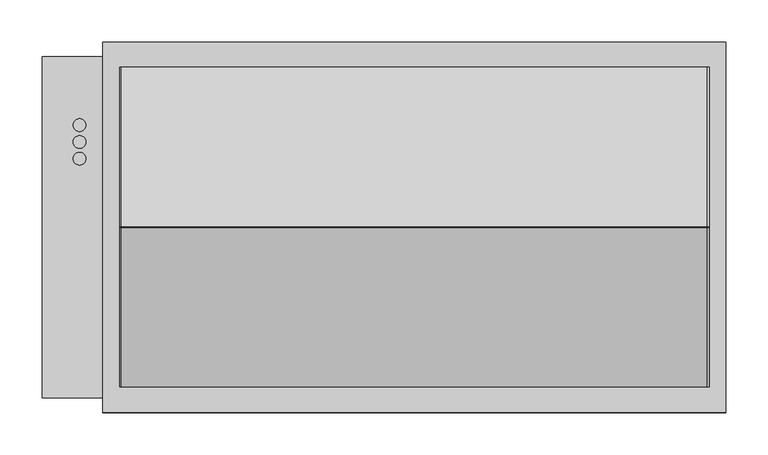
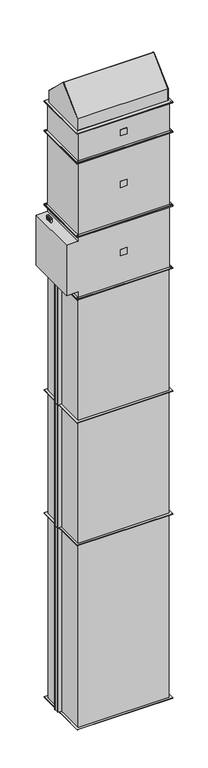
"""IFC4 building model written with IfcOpenShell, lengths in millimetres: proxy geometry, KORF_Завеса_ЭлектрическийНагрев_PWZ_C : PWZ-C 70-40 E."""

from ifc_helpers import new_model, si_unit, point, frame, frame_2d, origin, origin_with_axes, place, context, project, spatial, polyline, circle_curve, trimmed, segment, composite_curve, outline, extrude, source, transform, mapped, element, save


def mechanical_equipment_a9e4a32b(model_context):
    return source(origin(), model_context, "Body", "SweptSolid", [
        extrude(outline(polyline([(25.0, -205.0), (-25.0, -205.0), (-25.0, -203.0), (25.0, -203.0), (25.0, -205.0)])), frame((0.0, 0.0, 3730.0), z_axis=(0.0, 0.0, 1.0), x_axis=(1.0, 0.0, 0.0)), (0.0, 0.0, 1.0), 50.0),
        extrude(outline(composite_curve([segment(trimmed(circle_curve(frame_2d((-397.5, 101.5)), 7.5), [point((-390.0, 101.5))], [point((-405.0, 101.5))], False, "CARTESIAN"), True, "CONTINUOUS"), segment(trimmed(circle_curve(frame_2d((-397.5, 101.5)), 7.5), [point((-405.0, 101.5))], [point((-390.0, 101.5))], False, "CARTESIAN"), True, "CONTINUOUS")], self_intersect=False)), frame((0.0, 0.0, 3960.0), z_axis=(0.0, 0.0, 1.0), x_axis=(1.0, 0.0, 0.0)), (0.0, 0.0, 1.0), 30.0),
        extrude(outline(composite_curve([segment(trimmed(circle_curve(frame_2d((-397.5, 81.5)), 7.5), [point((-390.0, 81.5))], [point((-405.0, 81.5))], False, "CARTESIAN"), True, "CONTINUOUS"), segment(trimmed(circle_curve(frame_2d((-397.5, 81.5)), 7.5), [point((-405.0, 81.5))], [point((-390.0, 81.5))], False, "CARTESIAN"), True, "CONTINUOUS")], self_intersect=False)), frame((0.0, 0.0, 3960.0), z_axis=(0.0, 0.0, 1.0), x_axis=(1.0, 0.0, 0.0)), (0.0, 0.0, 1.0), 30.0),
        extrude(outline(composite_curve([segment(trimmed(circle_curve(frame_2d((-397.5, 121.5)), 7.5), [point((-390.0, 121.5))], [point((-405.0, 121.5))], False, "CARTESIAN"), True, "CONTINUOUS"), segment(trimmed(circle_curve(frame_2d((-397.5, 121.5)), 7.5), [point((-405.0, 121.5))], [point((-390.0, 121.5))], False, "CARTESIAN"), True, "CONTINUOUS")], self_intersect=False)), frame((0.0, 0.0, 3960.0), z_axis=(0.0, 0.0, 1.0), x_axis=(1.0, 0.0, 0.0)), (0.0, 0.0, 1.0), 30.0),
        extrude(outline(polyline([(-121.5, 3730.0), (-109.0, 3730.0), (-109.0, 3805.0), (-94.0, 3805.0), (-94.0, 3730.0), (-81.5, 3730.0), (-101.5, 3705.0), (-121.5, 3730.0)])), frame((353.0, 0.0, 0.0), z_axis=(1.0, 0.0, 0.0), x_axis=(0.0, 1.0, 0.0)), (0.0, 0.0, 1.0), 1.0),
        extrude(outline(polyline([(4005.0, 353.0), (4005.0, -353.0), (3960.0, -353.0), (3960.0, -442.0), (3550.0, -442.0), (3550.0, -353.0), (3505.0, -353.0), (3505.0, 353.0), (4005.0, 353.0)])), frame((0.0, -203.0, 0.0), z_axis=(0.0, 1.0, 0.0), x_axis=(0.0, 0.0, 1.0)), (0.0, 0.0, 1.0), 406.0),
        extrude(outline(polyline([(370.0, -220.0), (-370.0, -220.0), (-370.0, 220.0), (370.0, 220.0), (370.0, -220.0)]), holes=[polyline([(350.0, -200.0), (350.0, 200.0), (-350.0, 200.0), (-350.0, -200.0), (350.0, -200.0)]), composite_curve([segment(trimmed(circle_curve(frame_2d((-360.0, -210.0)), 4.5), [point((-355.5, -210.0))], [point((-364.5, -210.0))], True, "CARTESIAN"), True, "CONTINUOUS"), segment(trimmed(circle_curve(frame_2d((-360.0, -210.0)), 4.5), [point((-364.5, -210.0))], [point((-355.5, -210.0))], True, "CARTESIAN"), True, "CONTINUOUS")], self_intersect=False), composite_curve([segment(trimmed(circle_curve(frame_2d((360.0, -210.0)), 4.5), [point((364.5, -210.0))], [point((355.5, -210.0))], True, "CARTESIAN"), True, "CONTINUOUS"), segment(trimmed(circle_curve(frame_2d((360.0, -210.0)), 4.5), [point((355.5, -210.0))], [point((364.5, -210.0))], True, "CARTESIAN"), True, "CONTINUOUS")], self_intersect=False), composite_curve([segment(trimmed(circle_curve(frame_2d((360.0, 210.0)), 4.5), [point((364.5, 210.0))], [point((355.5, 210.0))], True, "CARTESIAN"), True, "CONTINUOUS"), segment(trimmed(circle_curve(frame_2d((360.0, 210.0)), 4.5), [point((355.5, 210.0))], [point((364.5, 210.0))], True, "CARTESIAN"), True, "CONTINUOUS")], self_intersect=False), composite_curve([segment(trimmed(circle_curve(frame_2d((-360.0, 210.0)), 4.5), [point((-355.5, 210.0))], [point((-364.5, 210.0))], True, "CARTESIAN"), True, "CONTINUOUS"), segment(trimmed(circle_curve(frame_2d((-360.0, 210.0)), 4.5), [point((-364.5, 210.0))], [point((-355.5, 210.0))], True, "CARTESIAN"), True, "CONTINUOUS")], self_intersect=False)]), frame((0.0, 0.0, 4005.0), z_axis=(0.0, 0.0, 1.0), x_axis=(1.0, 0.0, 0.0)), (0.0, 0.0, 1.0), 5.0),
        extrude(outline(polyline([(370.0, -220.0), (-370.0, -220.0), (-370.0, 220.0), (370.0, 220.0), (370.0, -220.0)]), holes=[polyline([(350.0, -200.0), (350.0, 200.0), (-350.0, 200.0), (-350.0, -200.0), (350.0, -200.0)]), composite_curve([segment(trimmed(circle_curve(frame_2d((-360.0, -210.0)), 4.5), [point((-355.5, -210.0))], [point((-364.5, -210.0))], True, "CARTESIAN"), True, "CONTINUOUS"), segment(trimmed(circle_curve(frame_2d((-360.0, -210.0)), 4.5), [point((-364.5, -210.0))], [point((-355.5, -210.0))], True, "CARTESIAN"), True, "CONTINUOUS")], self_intersect=False), composite_curve([segment(trimmed(circle_curve(frame_2d((360.0, -210.0)), 4.5), [point((364.5, -210.0))], [point((355.5, -210.0))], True, "CARTESIAN"), True, "CONTINUOUS"), segment(trimmed(circle_curve(frame_2d((360.0, -210.0)), 4.5), [point((355.5, -210.0))], [point((364.5, -210.0))], True, "CARTESIAN"), True, "CONTINUOUS")], self_intersect=False), composite_curve([segment(trimmed(circle_curve(frame_2d((360.0, 210.0)), 4.5), [point((364.5, 210.0))], [point((355.5, 210.0))], True, "CARTESIAN"), True, "CONTINUOUS"), segment(trimmed(circle_curve(frame_2d((360.0, 210.0)), 4.5), [point((355.5, 210.0))], [point((364.5, 210.0))], True, "CARTESIAN"), True, "CONTINUOUS")], self_intersect=False), composite_curve([segment(trimmed(circle_curve(frame_2d((-360.0, 210.0)), 4.5), [point((-355.5, 210.0))], [point((-364.5, 210.0))], True, "CARTESIAN"), True, "CONTINUOUS"), segment(trimmed(circle_curve(frame_2d((-360.0, 210.0)), 4.5), [point((-364.5, 210.0))], [point((-355.5, 210.0))], True, "CARTESIAN"), True, "CONTINUOUS")], self_intersect=False)]), frame((0.0, 0.0, 3500.0), z_axis=(0.0, 0.0, 1.0), x_axis=(1.0, 0.0, 0.0)), (0.0, 0.0, 1.0), 5.0),
        extrude(outline(polyline([(25.0, -205.0), (-25.0, -205.0), (-25.0, -203.0), (25.0, -203.0), (25.0, -205.0)])), frame((0.0, 0.0, 4706.0), z_axis=(0.0, 0.0, 1.0), x_axis=(1.0, 0.0, 0.0)), (0.0, 0.0, 1.0), 50.0),
        extrude(outline(polyline([(-370.0, -220.0), (-370.0, 220.0), (370.0, 220.0), (370.0, -220.0), (-370.0, -220.0)]), holes=[polyline([(-350.0, -200.0), (350.0, -200.0), (350.0, 200.0), (-350.0, 200.0), (-350.0, -200.0)]), composite_curve([segment(trimmed(circle_curve(frame_2d((360.0, -210.0)), 4.5), [point((364.5, -210.0))], [point((355.5, -210.0))], True, "CARTESIAN"), True, "CONTINUOUS"), segment(trimmed(circle_curve(frame_2d((360.0, -210.0)), 4.5), [point((355.5, -210.0))], [point((364.5, -210.0))], True, "CARTESIAN"), True, "CONTINUOUS")], self_intersect=False), composite_curve([segment(trimmed(circle_curve(frame_2d((-360.0, -210.0)), 4.5), [point((-355.5, -210.0))], [point((-364.5, -210.0))], True, "CARTESIAN"), True, "CONTINUOUS"), segment(trimmed(circle_curve(frame_2d((-360.0, -210.0)), 4.5), [point((-364.5, -210.0))], [point((-355.5, -210.0))], True, "CARTESIAN"), True, "CONTINUOUS")], self_intersect=False), composite_curve([segment(trimmed(circle_curve(frame_2d((-360.0, 210.0)), 4.5), [point((-355.5, 210.0))], [point((-364.5, 210.0))], True, "CARTESIAN"), True, "CONTINUOUS"), segment(trimmed(circle_curve(frame_2d((-360.0, 210.0)), 4.5), [point((-364.5, 210.0))], [point((-355.5, 210.0))], True, "CARTESIAN"), True, "CONTINUOUS")], self_intersect=False), composite_curve([segment(trimmed(circle_curve(frame_2d((360.0, 210.0)), 4.5), [point((364.5, 210.0))], [point((355.5, 210.0))], True, "CARTESIAN"), True, "CONTINUOUS"), segment(trimmed(circle_curve(frame_2d((360.0, 210.0)), 4.5), [point((355.5, 210.0))], [point((364.5, 210.0))], True, "CARTESIAN"), True, "CONTINUOUS")], self_intersect=False)]), frame((0.0, 0.0, 4610.0), z_axis=(0.0, 0.0, 1.0), x_axis=(1.0, 0.0, 0.0)), (0.0, 0.0, 1.0), 5.0),
        extrude(outline(polyline([(-370.0, -220.0), (-370.0, 220.0), (370.0, 220.0), (370.0, -220.0), (-370.0, -220.0)]), holes=[polyline([(-350.0, -200.0), (350.0, -200.0), (350.0, 200.0), (-350.0, 200.0), (-350.0, -200.0)]), composite_curve([segment(trimmed(circle_curve(frame_2d((360.0, -210.0)), 4.5), [point((364.5, -210.0))], [point((355.5, -210.0))], True, "CARTESIAN"), True, "CONTINUOUS"), segment(trimmed(circle_curve(frame_2d((360.0, -210.0)), 4.5), [point((355.5, -210.0))], [point((364.5, -210.0))], True, "CARTESIAN"), True, "CONTINUOUS")], self_intersect=False), composite_curve([segment(trimmed(circle_curve(frame_2d((-360.0, -210.0)), 4.5), [point((-355.5, -210.0))], [point((-364.5, -210.0))], True, "CARTESIAN"), True, "CONTINUOUS"), segment(trimmed(circle_curve(frame_2d((-360.0, -210.0)), 4.5), [point((-364.5, -210.0))], [point((-355.5, -210.0))], True, "CARTESIAN"), True, "CONTINUOUS")], self_intersect=False), composite_curve([segment(trimmed(circle_curve(frame_2d((-360.0, 210.0)), 4.5), [point((-355.5, 210.0))], [point((-364.5, 210.0))], True, "CARTESIAN"), True, "CONTINUOUS"), segment(trimmed(circle_curve(frame_2d((-360.0, 210.0)), 4.5), [point((-364.5, 210.0))], [point((-355.5, 210.0))], True, "CARTESIAN"), True, "CONTINUOUS")], self_intersect=False), composite_curve([segment(trimmed(circle_curve(frame_2d((360.0, 210.0)), 4.5), [point((364.5, 210.0))], [point((355.5, 210.0))], True, "CARTESIAN"), True, "CONTINUOUS"), segment(trimmed(circle_curve(frame_2d((360.0, 210.0)), 4.5), [point((355.5, 210.0))], [point((364.5, 210.0))], True, "CARTESIAN"), True, "CONTINUOUS")], self_intersect=False)]), frame((0.0, 0.0, 4847.0), z_axis=(0.0, 0.0, 1.0), x_axis=(1.0, 0.0, 0.0)), (0.0, 0.0, 1.0), 5.0),
        extrude(outline(polyline([(-353.0, -203.0), (-353.0, 203.0), (353.0, 203.0), (353.0, -203.0), (-353.0, -203.0)])), frame((0.0, 0.0, 4615.0), z_axis=(0.0, 0.0, 1.0), x_axis=(1.0, 0.0, 0.0)), (0.0, 0.0, 1.0), 232.0),
        extrude(outline(polyline([(25.0, -205.0), (-25.0, -205.0), (-25.0, -203.0), (25.0, -203.0), (25.0, -205.0)])), frame((0.0, 0.0, 4285.0), z_axis=(0.0, 0.0, 1.0), x_axis=(1.0, 0.0, 0.0)), (0.0, 0.0, 1.0), 50.0),
        extrude(outline(polyline([(370.0, -220.0), (-370.0, -220.0), (-370.0, 220.0), (370.0, 220.0), (370.0, -220.0)]), holes=[polyline([(350.0, -200.0), (350.0, 200.0), (-350.0, 200.0), (-350.0, -200.0), (350.0, -200.0)]), composite_curve([segment(trimmed(circle_curve(frame_2d((-360.0, -210.0)), 4.5), [point((-355.5, -210.0))], [point((-364.5, -210.0))], True, "CARTESIAN"), True, "CONTINUOUS"), segment(trimmed(circle_curve(frame_2d((-360.0, -210.0)), 4.5), [point((-364.5, -210.0))], [point((-355.5, -210.0))], True, "CARTESIAN"), True, "CONTINUOUS")], self_intersect=False), composite_curve([segment(trimmed(circle_curve(frame_2d((360.0, -210.0)), 4.5), [point((364.5, -210.0))], [point((355.5, -210.0))], True, "CARTESIAN"), True, "CONTINUOUS"), segment(trimmed(circle_curve(frame_2d((360.0, -210.0)), 4.5), [point((355.5, -210.0))], [point((364.5, -210.0))], True, "CARTESIAN"), True, "CONTINUOUS")], self_intersect=False), composite_curve([segment(trimmed(circle_curve(frame_2d((360.0, 210.0)), 4.5), [point((364.5, 210.0))], [point((355.5, 210.0))], True, "CARTESIAN"), True, "CONTINUOUS"), segment(trimmed(circle_curve(frame_2d((360.0, 210.0)), 4.5), [point((355.5, 210.0))], [point((364.5, 210.0))], True, "CARTESIAN"), True, "CONTINUOUS")], self_intersect=False), composite_curve([segment(trimmed(circle_curve(frame_2d((-360.0, 210.0)), 4.5), [point((-355.5, 210.0))], [point((-364.5, 210.0))], True, "CARTESIAN"), True, "CONTINUOUS"), segment(trimmed(circle_curve(frame_2d((-360.0, 210.0)), 4.5), [point((-364.5, 210.0))], [point((-355.5, 210.0))], True, "CARTESIAN"), True, "CONTINUOUS")], self_intersect=False)]), frame((0.0, 0.0, 4605.0), z_axis=(0.0, 0.0, 1.0), x_axis=(1.0, 0.0, 0.0)), (0.0, 0.0, 1.0), 5.0),
        extrude(outline(polyline([(370.0, -220.0), (-370.0, -220.0), (-370.0, 220.0), (370.0, 220.0), (370.0, -220.0)]), holes=[polyline([(350.0, -200.0), (350.0, 200.0), (-350.0, 200.0), (-350.0, -200.0), (350.0, -200.0)]), composite_curve([segment(trimmed(circle_curve(frame_2d((-360.0, -210.0)), 4.5), [point((-355.5, -210.0))], [point((-364.5, -210.0))], True, "CARTESIAN"), True, "CONTINUOUS"), segment(trimmed(circle_curve(frame_2d((-360.0, -210.0)), 4.5), [point((-364.5, -210.0))], [point((-355.5, -210.0))], True, "CARTESIAN"), True, "CONTINUOUS")], self_intersect=False), composite_curve([segment(trimmed(circle_curve(frame_2d((360.0, -210.0)), 4.5), [point((364.5, -210.0))], [point((355.5, -210.0))], True, "CARTESIAN"), True, "CONTINUOUS"), segment(trimmed(circle_curve(frame_2d((360.0, -210.0)), 4.5), [point((355.5, -210.0))], [point((364.5, -210.0))], True, "CARTESIAN"), True, "CONTINUOUS")], self_intersect=False), composite_curve([segment(trimmed(circle_curve(frame_2d((360.0, 210.0)), 4.5), [point((364.5, 210.0))], [point((355.5, 210.0))], True, "CARTESIAN"), True, "CONTINUOUS"), segment(trimmed(circle_curve(frame_2d((360.0, 210.0)), 4.5), [point((355.5, 210.0))], [point((364.5, 210.0))], True, "CARTESIAN"), True, "CONTINUOUS")], self_intersect=False), composite_curve([segment(trimmed(circle_curve(frame_2d((-360.0, 210.0)), 4.5), [point((-355.5, 210.0))], [point((-364.5, 210.0))], True, "CARTESIAN"), True, "CONTINUOUS"), segment(trimmed(circle_curve(frame_2d((-360.0, 210.0)), 4.5), [point((-364.5, 210.0))], [point((-355.5, 210.0))], True, "CARTESIAN"), True, "CONTINUOUS")], self_intersect=False)]), frame((0.0, 0.0, 4010.0), z_axis=(0.0, 0.0, 1.0), x_axis=(1.0, 0.0, 0.0)), (0.0, 0.0, 1.0), 5.0),
        extrude(outline(polyline([(353.0, -203.0), (-353.0, -203.0), (-353.0, 203.0), (353.0, 203.0), (353.0, -203.0)])), frame((0.0, 0.0, 4015.0), z_axis=(0.0, 0.0, 1.0), x_axis=(1.0, 0.0, 0.0)), (0.0, 0.0, 1.0), 590.0),
        extrude(outline(polyline([(350.0, 200.0), (350.0, -200.0), (-350.0, -200.0), (-350.0, 200.0), (350.0, 200.0)])), frame((0.0, 0.0, 2500.0), z_axis=(0.0, 0.0, 1.0), x_axis=(1.0, 0.0, 0.0)), (0.0, 0.0, 1.0), 1000.0),
        extrude(outline(polyline([(-378.0, 52.5), (-350.0, 52.5), (-350.0, 23.5), (-378.0, 23.5), (-378.0, 52.5)])), frame((0.0, 0.0, 2502.0), z_axis=(0.0, 0.0, 1.0), x_axis=(1.0, 0.0, 0.0)), (0.0, 0.0, 1.0), 996.0),
        extrude(outline(polyline([(-382.0, 56.5), (-350.0, 56.5), (-350.0, 54.5), (-382.0, 54.5), (-382.0, 56.5)])), frame((0.0, 0.0, 2502.0), z_axis=(0.0, 0.0, 1.0), x_axis=(1.0, 0.0, 0.0)), (0.0, 0.0, 1.0), 996.0),
        extrude(outline(polyline([(-382.0, 19.5), (-382.0, 21.5), (-350.0, 21.5), (-350.0, 19.5), (-382.0, 19.5)])), frame((0.0, 0.0, 2502.0), z_axis=(0.0, 0.0, 1.0), x_axis=(1.0, 0.0, 0.0)), (0.0, 0.0, 1.0), 996.0),
        extrude(outline(polyline([(370.0, 220.0), (370.0, -220.0), (-370.0, -220.0), (-370.0, 220.0), (370.0, 220.0)]), holes=[polyline([(350.0, 200.0), (-350.0, 200.0), (-350.0, -200.0), (350.0, -200.0), (350.0, 200.0)])]), frame((0.0, 0.0, 3498.0), z_axis=(0.0, 0.0, 1.0), x_axis=(1.0, 0.0, 0.0)), (0.0, 0.0, 1.0), 2.0),
        extrude(outline(polyline([(370.0, 220.0), (370.0, -220.0), (-370.0, -220.0), (-370.0, 220.0), (370.0, 220.0)]), holes=[polyline([(350.0, 200.0), (-350.0, 200.0), (-350.0, -200.0), (350.0, -200.0), (350.0, 200.0)])]), frame((0.0, 0.0, 2500.0), z_axis=(0.0, 0.0, 1.0), x_axis=(1.0, 0.0, 0.0)), (0.0, 0.0, 1.0), 2.0),
        extrude(outline(polyline([(350.0, 200.0), (350.0, -200.0), (-350.0, -200.0), (-350.0, 200.0), (350.0, 200.0)])), frame((0.0, 0.0, 1500.0), z_axis=(0.0, 0.0, 1.0), x_axis=(1.0, 0.0, 0.0)), (0.0, 0.0, 1.0), 1000.0),
        extrude(outline(polyline([(-378.0, 52.5), (-350.0, 52.5), (-350.0, 23.5), (-378.0, 23.5), (-378.0, 52.5)])), frame((0.0, 0.0, 1502.0), z_axis=(0.0, 0.0, 1.0), x_axis=(1.0, 0.0, 0.0)), (0.0, 0.0, 1.0), 996.0),
        extrude(outline(polyline([(-382.0, 56.5), (-350.0, 56.5), (-350.0, 54.5), (-382.0, 54.5), (-382.0, 56.5)])), frame((0.0, 0.0, 1502.0), z_axis=(0.0, 0.0, 1.0), x_axis=(1.0, 0.0, 0.0)), (0.0, 0.0, 1.0), 996.0),
        extrude(outline(polyline([(-382.0, 19.5), (-382.0, 21.5), (-350.0, 21.5), (-350.0, 19.5), (-382.0, 19.5)])), frame((0.0, 0.0, 1502.0), z_axis=(0.0, 0.0, 1.0), x_axis=(1.0, 0.0, 0.0)), (0.0, 0.0, 1.0), 996.0),
        extrude(outline(polyline([(370.0, 220.0), (370.0, -220.0), (-370.0, -220.0), (-370.0, 220.0), (370.0, 220.0)]), holes=[polyline([(350.0, 200.0), (-350.0, 200.0), (-350.0, -200.0), (350.0, -200.0), (350.0, 200.0)])]), frame((0.0, 0.0, 2498.0), z_axis=(0.0, 0.0, 1.0), x_axis=(1.0, 0.0, 0.0)), (0.0, 0.0, 1.0), 2.0),
        extrude(outline(polyline([(370.0, 220.0), (370.0, -220.0), (-370.0, -220.0), (-370.0, 220.0), (370.0, 220.0)]), holes=[polyline([(350.0, 200.0), (-350.0, 200.0), (-350.0, -200.0), (350.0, -200.0), (350.0, 200.0)])]), frame((0.0, 0.0, 1500.0), z_axis=(0.0, 0.0, 1.0), x_axis=(1.0, 0.0, 0.0)), (0.0, 0.0, 1.0), 2.0),
        extrude(outline(polyline([(350.0, 200.0), (350.0, -200.0), (-350.0, -200.0), (-350.0, 200.0), (350.0, 200.0)])), origin_with_axes(), (0.0, 0.0, 1.0), 1500.0),
        extrude(outline(polyline([(-378.0, 52.5), (-350.0, 52.5), (-350.0, 23.5), (-378.0, 23.5), (-378.0, 52.5)])), frame((0.0, 0.0, 2.0), z_axis=(0.0, 0.0, 1.0), x_axis=(1.0, 0.0, 0.0)), (0.0, 0.0, 1.0), 1496.0),
        extrude(outline(polyline([(-382.0, 56.5), (-350.0, 56.5), (-350.0, 54.5), (-382.0, 54.5), (-382.0, 56.5)])), frame((0.0, 0.0, 2.0), z_axis=(0.0, 0.0, 1.0), x_axis=(1.0, 0.0, 0.0)), (0.0, 0.0, 1.0), 1496.0),
        extrude(outline(polyline([(-382.0, 19.5), (-382.0, 21.5), (-350.0, 21.5), (-350.0, 19.5), (-382.0, 19.5)])), frame((0.0, 0.0, 2.0), z_axis=(0.0, 0.0, 1.0), x_axis=(1.0, 0.0, 0.0)), (0.0, 0.0, 1.0), 1496.0),
        extrude(outline(polyline([(370.0, 220.0), (370.0, -220.0), (-370.0, -220.0), (-370.0, 220.0), (370.0, 220.0)]), holes=[polyline([(350.0, 200.0), (-350.0, 200.0), (-350.0, -200.0), (350.0, -200.0), (350.0, 200.0)])]), frame((0.0, 0.0, 1498.0), z_axis=(0.0, 0.0, 1.0), x_axis=(1.0, 0.0, 0.0)), (0.0, 0.0, 1.0), 2.0),
        extrude(outline(polyline([(370.0, 220.0), (370.0, -220.0), (-370.0, -220.0), (-370.0, 220.0), (370.0, 220.0)]), holes=[polyline([(350.0, 200.0), (-350.0, 200.0), (-350.0, -200.0), (350.0, -200.0), (350.0, 200.0)])]), origin_with_axes(), (0.0, 0.0, 1.0), 2.0),
        extrude(outline(composite_curve([segment(polyline([(190.0, 4949.1428571), (190.0, 4854.0), (-190.0, 4854.0), (-190.0, 4949.1428571), (-0.6395979, 5131.3786763)]), True, "CONTINUOUS"), segment(trimmed(circle_curve(frame_2d((0.0, 5130.7202668)), 0.9179263), [point((-0.6395979, 5131.3786763))], [point((0.6395979, 5131.3786763))], False, "CARTESIAN"), True, "CONTINUOUS"), segment(polyline([(0.6395979, 5131.3786763), (190.0, 4949.1428571)]), True, "CONTINUOUS")], self_intersect=False)), frame((348.0, 0.0, 0.0), z_axis=(1.0, 0.0, 0.0), x_axis=(0.0, 1.0, 0.0)), (0.0, 0.0, 1.0), 2.0),
        extrude(outline(composite_curve([segment(polyline([(190.0, 4949.1428571), (190.0, 4854.0), (-190.0, 4854.0), (-190.0, 4949.1428571), (-0.6395979, 5131.3786763)]), True, "CONTINUOUS"), segment(trimmed(circle_curve(frame_2d((0.0, 5130.7202668)), 0.9179263), [point((-0.6395979, 5131.3786763))], [point((0.6395979, 5131.3786763))], False, "CARTESIAN"), True, "CONTINUOUS"), segment(polyline([(0.6395979, 5131.3786763), (190.0, 4949.1428571)]), True, "CONTINUOUS")], self_intersect=False)), frame((-348.0, 0.0, 0.0), z_axis=(1.0, 0.0, 0.0), x_axis=(0.0, 1.0, 0.0)), (0.0, 0.0, 1.0), 696.0),
        extrude(outline(composite_curve([segment(polyline([(190.0, 4949.1428571), (190.0, 4854.0), (-190.0, 4854.0), (-190.0, 4949.1428571), (-0.6395979, 5131.3786763)]), True, "CONTINUOUS"), segment(trimmed(circle_curve(frame_2d((0.0, 5130.7202668)), 0.9179263), [point((-0.6395979, 5131.3786763))], [point((0.6395979, 5131.3786763))], False, "CARTESIAN"), True, "CONTINUOUS"), segment(polyline([(0.6395979, 5131.3786763), (190.0, 4949.1428571)]), True, "CONTINUOUS")], self_intersect=False)), frame((-350.0, 0.0, 0.0), z_axis=(1.0, 0.0, 0.0), x_axis=(0.0, 1.0, 0.0)), (0.0, 0.0, 1.0), 2.0),
        extrude(outline(polyline([(370.0, 220.0), (370.0, -220.0), (-370.0, -220.0), (-370.0, 220.0), (370.0, 220.0)]), holes=[polyline([(-350.0, 190.0), (-350.0, -190.0), (350.0, -190.0), (350.0, 190.0), (-350.0, 190.0)])]), frame((0.0, 0.0, 4852.0), z_axis=(0.0, 0.0, 1.0), x_axis=(1.0, 0.0, 0.0)), (0.0, 0.0, 1.0), 2.0),
    ])


if __name__ == "__main__":
    model = new_model("IFC4")
    model_context = context("Model", 3, world=origin())
    ifc_project = project(units=[si_unit("LENGTHUNIT", "METRE", prefix="MILLI")], contexts=[model_context])
    site = spatial("IfcSite", under=ifc_project)
    building = spatial("IfcBuilding", under=site)
    placement = place(None, origin())
    mechanical_equipment_shape = mechanical_equipment_a9e4a32b(model_context)
    element("IfcBuildingElementProxy", 1, Name="KORF_Завеса_ЭлектрическийНагрев_PWZ_C : PWZ-C 70-40 E", ObjectType="KORF_Завеса_ЭлектрическийНагрев_PWZ_C : PWZ-C 70-40 E", at=placement, inside=building, context=model_context, shape_type="MappedRepresentation", body=[
        mapped(mechanical_equipment_shape, transform((0.0, 0.0, 0.0), x_axis=(1.0, 0.0, 0.0), y_axis=(0.0, 1.0, 0.0), z_axis=(0.0, 0.0, 1.0))),
    ])
    save(model, "model.ifc")
